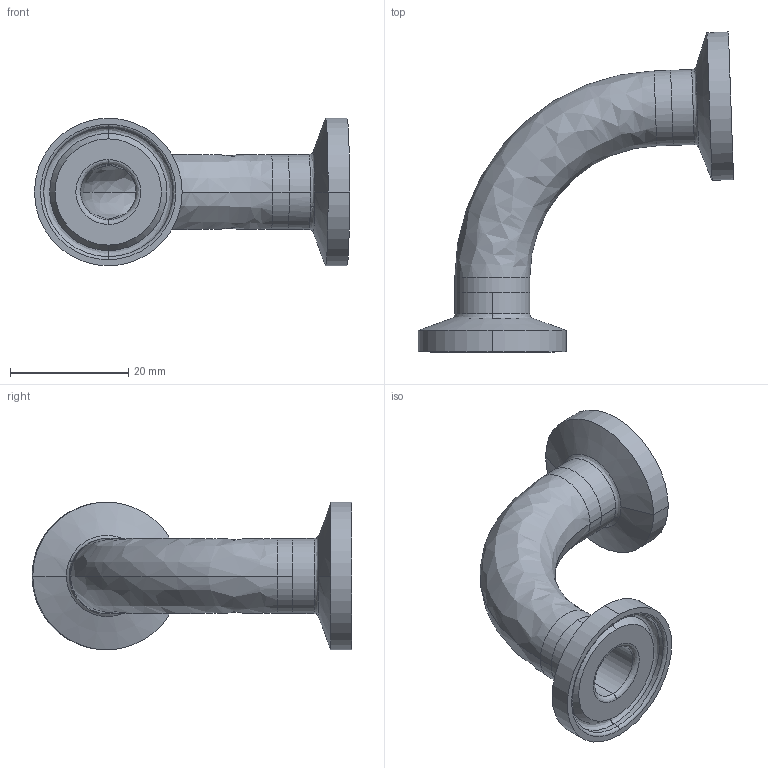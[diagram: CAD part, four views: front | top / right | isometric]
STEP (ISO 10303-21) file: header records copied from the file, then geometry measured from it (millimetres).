
FILE_DESCRIPTION (( 'STEP AP214' ), '1' );
FILE_NAME ('TEG2C886L.5-...STEP', '2016-05-22T08:53:43', ( 'eran' ), ( '' ), 'SwSTEP 2.0', 'SolidWorks 2016', '' );
FILE_SCHEMA (( 'AUTOMOTIVE_DESIGN' ));
Length unit declared in the file: millimetre
Products named in the file (1): TEG2C886L.5-..
Bounding box: 53.32 x 54.15 x 24.99 mm (x, y, z)
Volume: 6606.1 mm3; surface area: 6989.7 mm2
Topology: 3 solids, 3 shells, 60 faces, 136 edges, 84 vertices
Faces by surface type: cylinder 24, bspline 20, plane 8, cone 8
Entity records: 2000 total; most frequent: CARTESIAN_POINT 605, DIRECTION 306, ORIENTED_EDGE 272, AXIS2_PLACEMENT_3D 137, EDGE_CURVE 136, CIRCLE 96, VERTEX_POINT 84, EDGE_LOOP 68
